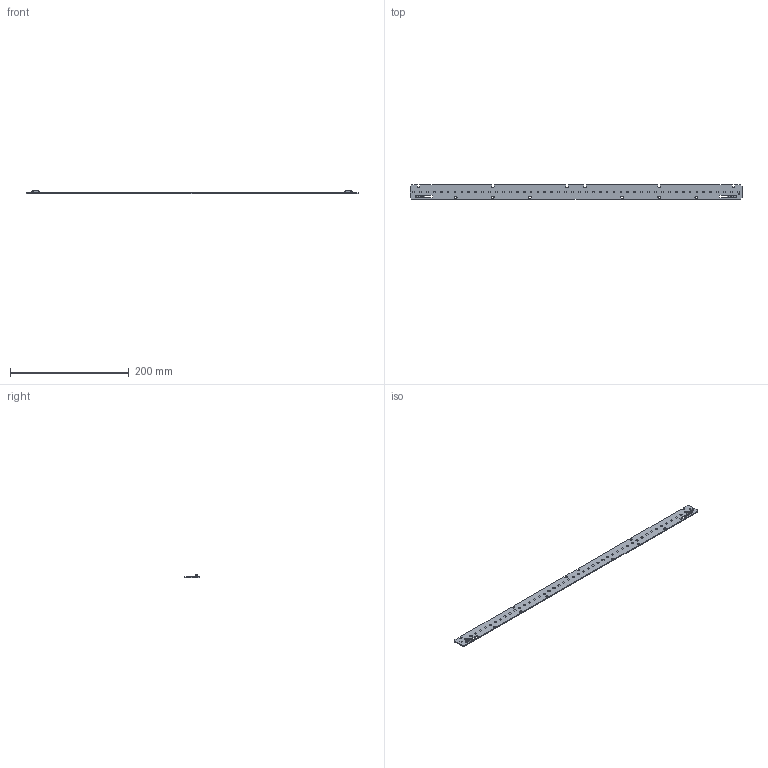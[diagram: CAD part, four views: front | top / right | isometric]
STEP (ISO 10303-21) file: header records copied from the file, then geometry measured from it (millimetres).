
FILE_DESCRIPTION((''),'2;1');
FILE_NAME('16208805_LLE-G5-24X560-2400LM','2018-08-21T11:20:01',('bernhard.fink'),(''),'CREO PARAMETRIC BY PTC INC, 2017380','CREO PARAMETRIC BY PTC INC, 2017380','');
FILE_SCHEMA(('AUTOMOTIVE_DESIGN { 1 0 10303 214 1 1 1 1 }'));
Length unit declared in the file: millimetre
Products named in the file (1): 16208805_LLE-G5-24X560-2400LM
Bounding box: 559 x 23.6 x 5.1 mm (x, y, z)
Volume: 21698.5 mm3; surface area: 28658.1 mm2
Topology: 1 solids, 1 shells, 985 faces, 2600 edges, 1668 vertices
Faces by surface type: plane 509, cylinder 298, bspline 120, cone 34, torus 12, sphere 12
Entity records: 50199 total; most frequent: CARTESIAN_POINT 11499, ORIENTED_EDGE 5172, DIRECTION 4430, PRESENTATION_STYLE_ASSIGNMENT 3572, STYLED_ITEM 2587, CURVE_STYLE 2586, EDGE_CURVE 2586, VERTEX_POINT 1666
